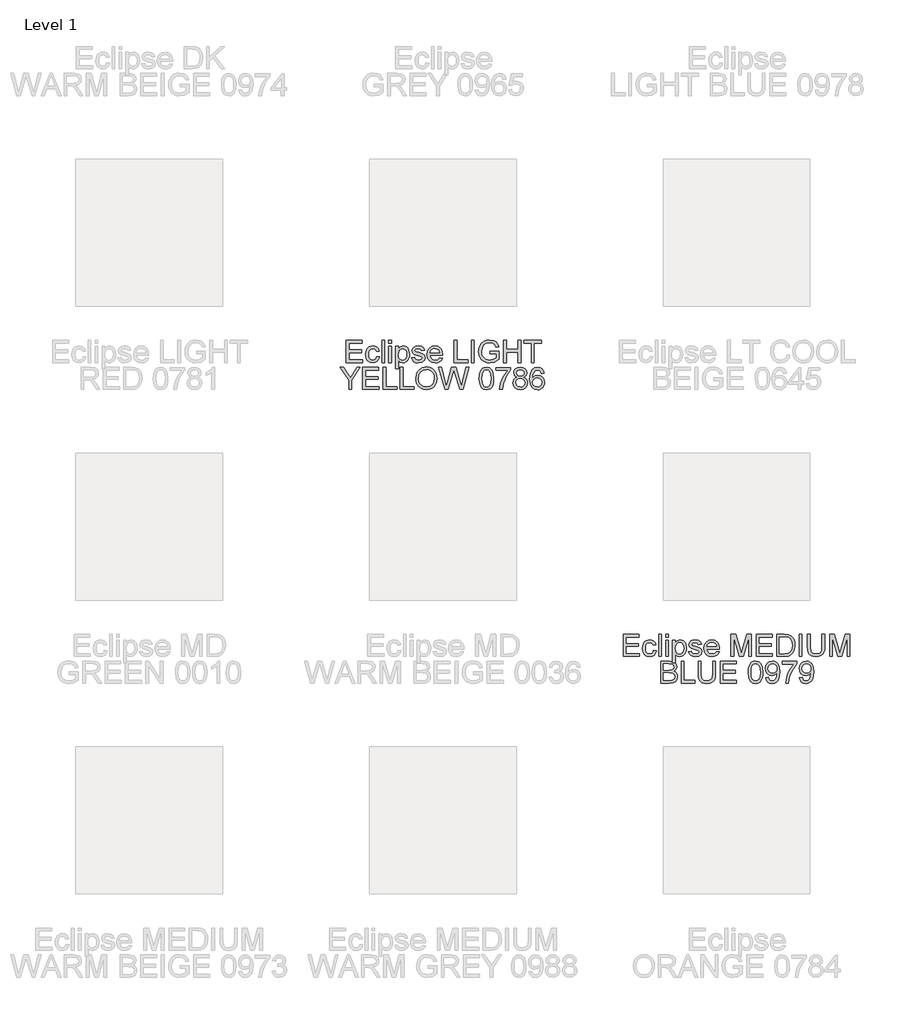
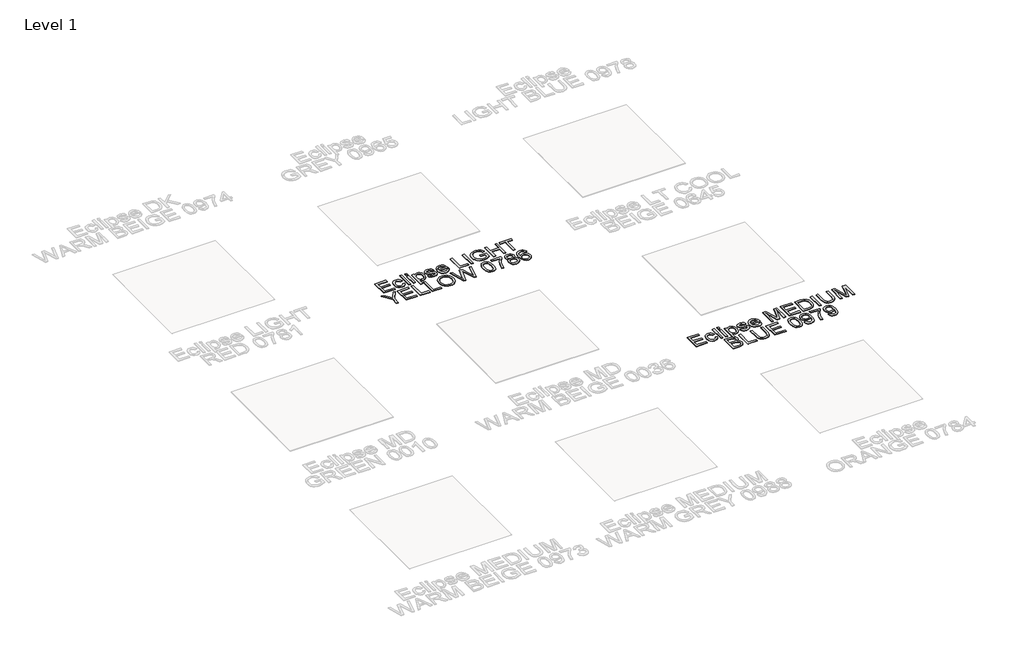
# One storey, part 9 of 13: 2 proxies.
"""IFC4 building model written with IfcOpenShell, lengths in millimetres."""

from ifc_helpers import new_model, si_unit, origin, origin_with_axes, place, context, project, spatial, polyline, outline, extrude, element, save

model = new_model("IFC4")

# Units and contexts
model_context = context("Model", 3, world=origin())
ifc_project = project(units=[si_unit("LENGTHUNIT", "METRE", prefix="MILLI")], contexts=[model_context])

# Site, building, storey
site = spatial("IfcSite", under=ifc_project)
building = spatial("IfcBuilding", under=site)
storey = spatial("IfcBuildingStorey", under=building, Name="Level 1", Elevation=0.0)

# Proxies
placement = place(None, origin())
element("IfcBuildingElementProxy", 1, Name="150mm Arial", ObjectType="150mm Arial", at=placement, inside=storey, context=model_context, shape_type="SweptSolid", body=[
    extrude(outline(polyline([(3407.9918437, -1362.9455422), (3407.9918437, -1212.261077), (3516.2963031, -1212.261077), (3516.2963031, -1231.0966352), (3426.8274019, -1231.0966352), (3426.8274019, -1275.8310858), (3511.5874136, -1275.8310858), (3511.5874136, -1294.6666439), (3426.8274019, -1294.6666439), (3426.8274019, -1344.1099841), (3518.6507479, -1344.1099841), (3518.6507479, -1362.9455422), (3407.9918437, -1362.9455422)])), origin_with_axes(), (0.0, 0.0, 1.0), 5.0),
    extrude(outline(polyline([(3615.1829834, -1322.9199812), (3634.0185416, -1325.2744259), (3628.7670261, -1342.0268523), (3618.8985916, -1354.6865914), (3605.34214, -1362.6466381), (3589.0265735, -1365.299987), (3568.9908004, -1361.5981744), (3553.3236259, -1350.4927367), (3543.2114696, -1332.4711175), (3539.8407508, -1308.0207603), (3541.2800891, -1291.2591369), (3545.598104, -1276.7323967), (3552.8637734, -1265.0015595), (3563.1460752, -1256.6276456), (3575.4471294, -1251.6060564), (3588.7690561, -1249.9321933), (3604.684551, -1252.2314558), (3617.4086695, -1259.1292432), (3626.5367415, -1270.2576735), (3631.6640968, -1285.2488648), (3612.8285386, -1287.6033096), (3604.0913412, -1273.4950351), (3588.9162089, -1268.7677515), (3576.7439134, -1271.0946051), (3567.0824125, -1278.0751659), (3560.7778348, -1290.0865131), (3558.6763089, -1307.5057256), (3560.7318496, -1325.1594628), (3566.8984715, -1337.2121967), (3576.3852285, -1344.1513708), (3588.4011742, -1346.4644288), (3598.1546455, -1345.020492), (3606.1514804, -1340.6886815), (3611.9686145, -1333.3586328), (3615.1829834, -1322.9199812)])), origin_with_axes(), (0.0, 0.0, 1.0), 5.0),
    extrude(outline(polyline([(3650.4996549, -1362.9455422), (3650.4996549, -1212.261077), (3669.3352131, -1212.261077), (3669.3352131, -1362.9455422), (3650.4996549, -1362.9455422)])), origin_with_axes(), (0.0, 0.0, 1.0), 5.0),
    extrude(outline(polyline([(3697.5885503, -1231.0966352), (3697.5885503, -1212.261077), (3716.4241085, -1212.261077), (3716.4241085, -1231.0966352), (3697.5885503, -1231.0966352)])), origin_with_axes(), (0.0, 0.0, 1.0), 5.0),
    extrude(outline(polyline([(3697.5885503, -1362.9455422), (3697.5885503, -1252.2866381), (3716.4241085, -1252.2866381), (3716.4241085, -1362.9455422), (3697.5885503, -1362.9455422)])), origin_with_axes(), (0.0, 0.0, 1.0), 5.0),
    extrude(outline(polyline([(3744.6774457, -1405.3255481), (3744.6774457, -1252.2866381), (3763.5130039, -1252.2866381), (3763.5130039, -1270.7543142), (3776.5360265, -1255.1377235), (3794.1207859, -1249.9321933), (3806.8586999, -1251.7532092), (3817.9963273, -1257.2162568), (3827.0646185, -1265.9902424), (3833.5945239, -1277.7440721), (3838.8552365, -1306.7699616), (3837.3699129, -1322.8785944), (3832.9139422, -1337.2857731), (3825.6298787, -1349.260332), (3815.6602767, -1358.0711058), (3804.0490012, -1363.4927667), (3791.8399175, -1365.299987), (3775.4507746, -1360.4623388), (3763.5130039, -1348.2302624), (3763.5130039, -1405.3255481), (3744.6774457, -1405.3255481)]), holes=[polyline([(3763.5130039, -1308.4990069), (3765.5501504, -1325.3847905), (3771.66159, -1337.1938026), (3780.6792975, -1344.1467723), (3791.4352473, -1346.4644288), (3802.3659411, -1344.0639988), (3811.6135747, -1336.8627088), (3817.9181524, -1324.6214354), (3820.0196783, -1307.1010554), (3817.9687362, -1290.3072423), (3811.8159098, -1278.3326833), (3802.811998, -1271.1589844), (3792.2077995, -1268.7677515), (3781.5622142, -1271.3107358), (3772.213413, -1278.9396886), (3765.6881062, -1291.4154868), (3763.5130039, -1308.4990069)])]), origin_with_axes(), (0.0, 0.0, 1.0), 5.0),
    extrude(outline(polyline([(3852.9819051, -1329.9833155), (3871.8174632, -1327.6288707), (3874.7881103, -1335.6854864), (3880.5362665, -1341.6083865), (3900.5122589, -1346.4644288), (3919.715699, -1342.0130567), (3925.9696929, -1331.565208), (3924.3969974, -1326.764348), (3919.6789108, -1323.1039222), (3900.2915297, -1317.732845), (3871.9278278, -1308.517401), (3859.5485987, -1297.7568527), (3855.3363499, -1282.5633263), (3858.7208642, -1268.5286282), (3867.9547023, -1257.804868), (3879.9292612, -1252.2314558), (3896.1344631, -1249.9321933), (3919.0535114, -1253.6294074), (3933.6216384, -1263.6357976), (3940.0963615, -1280.5399753), (3921.2608034, -1282.8944201), (3914.179075, -1272.5017537), (3897.6059911, -1268.7677515), (3879.5797733, -1272.3362068), (3874.171908, -1280.6503399), (3876.4159882, -1286.1317816), (3883.4425343, -1290.2888482), (3899.6661303, -1294.2987619), (3927.3124622, -1303.164718), (3940.1515438, -1313.2078965), (3944.8052511, -1329.5786453), (3939.3422035, -1347.604863), (3923.57846, -1360.683068), (3900.2547415, -1365.299987), (3881.2628335, -1363.0743009), (3867.4028793, -1356.3972427), (3858.1506471, -1345.3423888), (3852.9819051, -1329.9833155)])), origin_with_axes(), (0.0, 0.0, 1.0), 5.0),
    extrude(outline(polyline([(4043.4712022, -1329.9833155), (4061.9388783, -1332.3377602), (4055.2848128, -1346.2528967), (4044.6668187, -1356.6547601), (4030.3240194, -1363.1386803), (4012.4955382, -1365.299987), (3990.3950273, -1361.5705833), (3973.3896821, -1350.3823721), (3962.5463603, -1332.4619204), (3958.9319197, -1308.5357951), (3962.5831485, -1283.804928), (3973.5368349, -1265.3096607), (3990.3122539, -1253.7765602), (4011.4286804, -1249.9321933), (4031.8875179, -1253.7673631), (4048.235274, -1265.2728725), (4058.9544357, -1283.7313516), (4062.5274895, -1308.4254305), (4062.4171249, -1313.5022021), (3977.7674778, -1313.5022021), (3981.027832, -1327.6012795), (3988.6016026, -1337.9663548), (3999.5322964, -1344.3399103), (4012.8634202, -1346.4644288), (4031.3310963, -1342.5280915), (4043.4712022, -1329.9833155)]), holes=[polyline([(3977.7674778, -1294.6666439), (4043.6919314, -1294.6666439), (4041.1443486, -1284.715436), (4036.1503505, -1277.5969193), (4025.1690729, -1270.9750434), (4011.355104, -1268.7677515), (3998.6585766, -1270.5289865), (3988.1601442, -1275.8126917), (3980.8622851, -1284.0486498), (3977.7674778, -1294.6666439)])]), origin_with_axes(), (0.0, 0.0, 1.0), 5.0),
    extrude(outline(polyline([(4142.5786117, -1362.9455422), (4142.5786117, -1212.261077), (4161.4141698, -1212.261077), (4161.4141698, -1344.1099841), (4236.7564025, -1344.1099841), (4236.7564025, -1362.9455422), (4142.5786117, -1362.9455422)])), origin_with_axes(), (0.0, 0.0, 1.0), 5.0),
    extrude(outline(polyline([(4260.3008501, -1362.9455422), (4260.3008501, -1212.261077), (4279.1364083, -1212.261077), (4279.1364083, -1362.9455422), (4260.3008501, -1362.9455422)])), origin_with_axes(), (0.0, 0.0, 1.0), 5.0),
    extrude(outline(polyline([(4387.4408677, -1304.084423), (4387.4408677, -1285.2488648), (4448.6564317, -1285.2488648), (4448.6564317, -1341.5715983), (4418.4349258, -1359.3402987), (4386.4843745, -1365.299987), (4365.3541524, -1362.9317467), (4346.2564783, -1355.8270256), (4330.3915673, -1344.2341443), (4318.9596343, -1328.4014229), (4312.0480513, -1309.4095149), (4309.7441903, -1288.3390736), (4312.0388542, -1267.116881), (4318.9228461, -1247.3754134), (4330.1110573, -1230.8161251), (4345.3183792, -1219.1404703), (4363.8412377, -1212.2150918), (4384.9760583, -1209.9066322), (4414.4434061, -1215.2593153), (4426.1926373, -1221.660462), (4435.0999802, -1230.1585361), (4446.4859279, -1255.0825412), (4429.1218977, -1259.9753718), (4420.5318531, -1242.5561593), (4405.8533615, -1232.5129808), (4384.6817527, -1228.7421904), (4360.5670879, -1232.8072864), (4344.1595509, -1243.4758643), (4334.4658604, -1257.988809), (4328.5797484, -1287.5665214), (4330.3501805, -1305.5789436), (4335.6614769, -1320.3999895), (4344.352689, -1331.923893), (4356.2628686, -1340.044888), (4370.2009977, -1344.8595436), (4384.9760583, -1346.4644288), (4410.7461921, -1341.6267806), (4429.8208735, -1331.3076906), (4429.8208735, -1304.084423), (4387.4408677, -1304.084423)])), origin_with_axes(), (0.0, 0.0, 1.0), 5.0),
    extrude(outline(polyline([(4479.2642137, -1362.9455422), (4479.2642137, -1212.261077), (4498.0997718, -1212.261077), (4498.0997718, -1273.476641), (4578.150894, -1273.476641), (4578.150894, -1212.261077), (4596.9864521, -1212.261077), (4596.9864521, -1362.9455422), (4578.150894, -1362.9455422), (4578.150894, -1292.3121992), (4498.0997718, -1292.3121992), (4498.0997718, -1362.9455422), (4479.2642137, -1362.9455422)])), origin_with_axes(), (0.0, 0.0, 1.0), 5.0),
    extrude(outline(polyline([(4667.6197952, -1362.9455422), (4667.6197952, -1231.0966352), (4618.1764551, -1231.0966352), (4618.1764551, -1212.261077), (4735.8986935, -1212.261077), (4735.8986935, -1231.0966352), (4686.4553534, -1231.0966352), (4686.4553534, -1362.9455422), (4667.6197952, -1362.9455422)])), origin_with_axes(), (0.0, 0.0, 1.0), 5.0),
    extrude(outline(polyline([(3425.6501795, -1545.907769), (3425.6501795, -1482.0802428), (3366.7890603, -1395.2233038), (3389.0091328, -1395.2233038), (3420.4262552, -1441.6132234), (3436.5026983, -1465.2680357), (3452.6159297, -1439.9209662), (3481.1267844, -1395.2233038), (3503.3468569, -1395.2233038), (3444.4857376, -1482.0802428), (3444.4857376, -1545.907769), (3425.6501795, -1545.907769)])), origin_with_axes(), (0.0, 0.0, 1.0), 5.0),
    extrude(outline(polyline([(3519.8279703, -1545.907769), (3519.8279703, -1395.2233038), (3628.1324296, -1395.2233038), (3628.1324296, -1414.0588619), (3538.6635284, -1414.0588619), (3538.6635284, -1458.7933125), (3623.4235401, -1458.7933125), (3623.4235401, -1477.6288707), (3538.6635284, -1477.6288707), (3538.6635284, -1527.0722108), (3630.4868744, -1527.0722108), (3630.4868744, -1545.907769), (3519.8279703, -1545.907769)])), origin_with_axes(), (0.0, 0.0, 1.0), 5.0),
    extrude(outline(polyline([(3658.7402116, -1545.907769), (3658.7402116, -1395.2233038), (3677.5757698, -1395.2233038), (3677.5757698, -1527.0722108), (3752.9180024, -1527.0722108), (3752.9180024, -1545.907769), (3658.7402116, -1545.907769)])), origin_with_axes(), (0.0, 0.0, 1.0), 5.0),
    extrude(outline(polyline([(3774.1080053, -1545.907769), (3774.1080053, -1395.2233038), (3792.9435635, -1395.2233038), (3792.9435635, -1527.0722108), (3868.2857961, -1527.0722108), (3868.2857961, -1545.907769), (3774.1080053, -1545.907769)])), origin_with_axes(), (0.0, 0.0, 1.0), 5.0),
    extrude(outline(polyline([(3882.4124647, -1472.5520992), (3887.4340539, -1439.2311874), (3893.7110405, -1425.6126558), (3902.4988216, -1414.0220737), (3925.5006434, -1398.1571627), (3954.3333948, -1392.868859), (3974.0978549, -1395.3520625), (3991.8205701, -1402.8016729), (4006.5358499, -1414.6934584), (4017.2780041, -1430.5031871), (4023.8446977, -1449.467504), (4026.0335956, -1470.8230538), (4023.7297346, -1492.4637121), (4016.8181516, -1511.6947434), (4005.6805242, -1527.5320633), (3990.69853, -1538.9915875), (3973.1275662, -1545.9445572), (3954.2230302, -1548.2622138), (3934.1550673, -1545.7008354), (3916.3311847, -1538.0167002), (3901.652693, -1525.9041855), (3891.0209034, -1510.0576686), (3884.5645744, -1491.8245172), (3882.4124647, -1472.5520992)]), holes=[polyline([(3901.2480228, -1472.7360402), (3905.0142148, -1496.308079), (3916.3127906, -1514.2699174), (3933.2951432, -1525.6374711), (3954.1126656, -1529.4266556), (3975.2336906, -1525.6006829), (3992.2436344, -1514.1227646), (4003.4594367, -1495.6091032), (4007.1980375, -1470.675901), (4005.5977508, -1454.0016496), (4000.7968907, -1439.5898724), (3992.9196175, -1427.803853), (3982.0900913, -1419.0068748), (3969.0256819, -1413.5300316), (3954.4437594, -1411.7044172), (3934.1826585, -1415.2222887), (3916.956584, -1425.7759035), (3905.1751631, -1444.5516808), (3901.2480228, -1472.7360402)])]), origin_with_axes(), (0.0, 0.0, 1.0), 5.0),
    extrude(outline(polyline([(4078.8982383, -1545.907769), (4037.8058195, -1395.2233038), (4057.2299888, -1395.2233038), (4081.0687421, -1494.2571369), (4088.426382, -1524.8281307), (4096.2990567, -1497.788804), (4126.1710747, -1395.2233038), (4154.1668945, -1395.2233038), (4175.8719322, -1469.572255), (4192.0219518, -1524.8281307), (4199.1588625, -1495.1400537), (4223.218345, -1395.2233038), (4242.6425144, -1395.2233038), (4201.5133073, -1545.907769), (4181.3901622, -1545.907769), (4145.2641503, -1429.6570585), (4140.2241669, -1413.4334625), (4134.5587842, -1432.9679965), (4101.6333456, -1545.907769), (4078.8982383, -1545.907769)])), origin_with_axes(), (0.0, 0.0, 1.0), 5.0),
    extrude(outline(polyline([(4313.2758574, -1471.779547), (4314.6600135, -1447.6602837), (4318.8124815, -1428.4246538), (4325.6918748, -1413.7783519), (4335.2568067, -1403.4270723), (4347.576255, -1397.2742459), (4362.7191976, -1395.2233038), (4384.7185409, -1400.0793461), (4399.9120673, -1414.077256), (4408.7412352, -1436.3709049), (4412.1625378, -1471.779547), (4410.7921773, -1495.7608545), (4406.681096, -1514.9504991), (4399.8430894, -1529.6105966), (4390.2919531, -1540.003263), (4377.9449137, -1546.1974761), (4362.7191976, -1548.2622138), (4343.1478755, -1544.6753643), (4328.2854429, -1533.914816), (4317.0282538, -1508.4297907), (4313.2758574, -1471.779547)]), holes=[polyline([(4332.1114156, -1471.7427588), (4334.3187076, -1501.371055), (4340.9405835, -1518.5189545), (4350.799821, -1526.6997303), (4362.7191976, -1529.4266556), (4374.6385742, -1526.6905333), (4384.4978117, -1518.4821663), (4391.1196876, -1501.3250697), (4393.3269796, -1471.7427588), (4391.193264, -1442.7812487), (4384.7921173, -1425.499992), (4374.9512739, -1416.9191444), (4362.4984684, -1414.0588619), (4350.7078505, -1416.5788536), (4341.2348891, -1424.1388286), (4334.392284, -1442.4961402), (4332.1114156, -1471.7427588)])]), origin_with_axes(), (0.0, 0.0, 1.0), 5.0),
    extrude(outline(polyline([(4428.6436511, -1416.4133067), (4428.6436511, -1397.5777485), (4527.5303314, -1397.5777485), (4527.5303314, -1412.8080631), (4499.4793293, -1453.3302649), (4487.169078, -1478.7922975), (4478.0134149, -1504.9625029), (4471.023657, -1545.907769), (4452.1880988, -1545.907769), (4459.6744974, -1503.4173986), (4468.3887022, -1478.9578444), (4480.2207069, -1455.3904041), (4508.6947733, -1416.4133067), (4428.6436511, -1416.4133067)])), origin_with_axes(), (0.0, 0.0, 1.0), 5.0),
    extrude(outline(polyline([(4571.4554417, -1462.9135909), (4554.2937466, -1451.2149434), (4548.7203344, -1433.0047847), (4551.7553608, -1418.2803078), (4560.8604402, -1406.1126108), (4575.0147, -1397.9456305), (4593.1972676, -1395.2233038), (4611.4901998, -1398.0100099), (4625.8284006, -1406.3701282), (4635.0990268, -1418.7309633), (4638.1892356, -1433.5198195), (4632.6893998, -1451.2701257), (4616.0059513, -1462.9135909), (4627.5988327, -1468.8870748), (4636.0371259, -1477.684053), (4641.1828753, -1488.8814612), (4642.8981251, -1502.0562352), (4639.4952167, -1520.0640588), (4629.2864913, -1534.9448855), (4613.5227478, -1544.9328817), (4593.454785, -1548.2622138), (4573.3868221, -1544.9190861), (4557.6230786, -1534.8897032), (4547.4143533, -1519.8663223), (4544.0114448, -1501.5412004), (4545.7956725, -1487.8559902), (4551.1483555, -1476.5988011), (4559.7935824, -1468.1559093), (4571.4554417, -1462.9135909)]), holes=[polyline([(4567.5558925, -1433.5566077), (4569.2251571, -1441.7787703), (4574.2329507, -1448.3454639), (4582.4321207, -1452.6496832), (4593.6755142, -1454.084423), (4604.6567917, -1452.6588803), (4612.7318015, -1448.3822521), (4617.6982085, -1442.0362877), (4619.3536774, -1434.4027363), (4617.6430262, -1426.4794778), (4612.5110723, -1419.9265797), (4604.3256979, -1415.5257914), (4593.454785, -1414.0588619), (4582.5148941, -1415.4936017), (4574.3433153, -1419.7978211), (4569.2527482, -1426.1069973), (4567.5558925, -1433.5566077)]), polyline([(4562.847003, -1500.8790128), (4565.992394, -1515.0608637), (4577.1208244, -1525.6742593), (4593.6019378, -1529.4266556), (4606.4226253, -1527.4538884), (4616.0427395, -1521.5355868), (4622.0576101, -1512.5730617), (4624.062567, -1501.467624), (4621.9932308, -1490.1736467), (4615.7852221, -1481.013385), (4605.9443787, -1474.9433321), (4592.9765384, -1472.9199812), (4580.3351933, -1474.915741), (4570.8116482, -1480.9030204), (4564.8381643, -1489.8885382), (4562.847003, -1500.8790128)])]), origin_with_axes(), (0.0, 0.0, 1.0), 5.0),
    extrude(outline(polyline([(4755.911474, -1435.2488648), (4737.0759159, -1437.6033096), (4729.9390052, -1421.8947484), (4721.3949458, -1416.0178336), (4711.0666588, -1414.0588619), (4694.0705107, -1418.6205987), (4681.2130349, -1435.7455055), (4677.3088873, -1449.7756051), (4675.8603519, -1469.3147376), (4692.470224, -1454.2867581), (4713.0532216, -1449.3755335), (4730.45404, -1452.7324567), (4745.0589552, -1462.8032263), (4754.9641779, -1478.1898907), (4758.2659188, -1497.4944984), (4756.7116174, -1510.9819721), (4752.0487131, -1523.4853614), (4744.663482, -1534.0895599), (4734.9422003, -1541.8794612), (4723.3263263, -1546.6665256), (4710.2573184, -1548.2622138), (4688.887973, -1544.0315708), (4671.8688322, -1531.339642), (4660.7358034, -1508.9356285), (4657.0247937, -1475.5687315), (4661.1450721, -1438.0539651), (4673.5059071, -1412.4033929), (4690.3824937, -1399.5183261), (4712.2438812, -1395.2233038), (4728.7709799, -1397.8812512), (4742.0055346, -1405.8550934), (4751.2761609, -1418.5194311), (4755.911474, -1435.2488648)]), holes=[polyline([(4675.8603519, -1497.2001928), (4680.2197535, -1513.5157593), (4691.8080364, -1525.3615596), (4708.7857905, -1529.4266556), (4721.2156034, -1527.3205312), (4730.9874689, -1521.0021579), (4737.3196377, -1511.0693441), (4739.4303607, -1498.1198978), (4737.3472289, -1485.6900849), (4731.0978335, -1476.212525), (4721.1604211, -1470.21145), (4708.0132383, -1468.2110916), (4695.6018195, -1470.21145), (4685.2229487, -1476.212525), (4678.2010011, -1485.4601587), (4675.8603519, -1497.2001928)])]), origin_with_axes(), (0.0, 0.0, 1.0), 5.0),
])
element("IfcBuildingElementProxy", 2, Name="150mm Arial", ObjectType="150mm Arial", at=placement, inside=storey, context=model_context, shape_type="SweptSolid", body=[
    extrude(outline(polyline([(5293.8012724, -3362.9455422), (5293.8012724, -3212.261077), (5402.1057318, -3212.261077), (5402.1057318, -3231.0966352), (5312.6368306, -3231.0966352), (5312.6368306, -3275.8310858), (5397.3968423, -3275.8310858), (5397.3968423, -3294.6666439), (5312.6368306, -3294.6666439), (5312.6368306, -3344.1099841), (5404.4601766, -3344.1099841), (5404.4601766, -3362.9455422), (5293.8012724, -3362.9455422)])), origin_with_axes(), (0.0, 0.0, 1.0), 5.0),
    extrude(outline(polyline([(5500.9924121, -3322.9199812), (5519.8279703, -3325.2744259), (5514.5764548, -3342.0268523), (5504.7080202, -3354.6865914), (5491.1515687, -3362.6466381), (5474.8360022, -3365.299987), (5454.8002291, -3361.5981744), (5439.1330546, -3350.4927367), (5429.0208983, -3332.4711175), (5425.6501795, -3308.0207603), (5427.0895178, -3291.2591369), (5431.4075327, -3276.7323967), (5438.6732021, -3265.0015595), (5448.9555039, -3256.6276456), (5461.2565581, -3251.6060564), (5474.5784848, -3249.9321933), (5490.4939797, -3252.2314558), (5503.2180982, -3259.1292432), (5512.3461702, -3270.2576735), (5517.4735255, -3285.2488648), (5498.6379673, -3287.6033096), (5489.9007699, -3273.4950351), (5474.7256376, -3268.7677515), (5462.5533421, -3271.0946051), (5452.8918412, -3278.0751659), (5446.5872635, -3290.0865131), (5444.4857376, -3307.5057256), (5446.5412783, -3325.1594628), (5452.7079002, -3337.2121967), (5462.1946572, -3344.1513708), (5474.2106028, -3346.4644288), (5483.9640742, -3345.020492), (5491.9609091, -3340.6886815), (5497.7780432, -3333.3586328), (5500.9924121, -3322.9199812)])), origin_with_axes(), (0.0, 0.0, 1.0), 5.0),
    extrude(outline(polyline([(5536.3090836, -3362.9455422), (5536.3090836, -3212.261077), (5555.1446418, -3212.261077), (5555.1446418, -3362.9455422), (5536.3090836, -3362.9455422)])), origin_with_axes(), (0.0, 0.0, 1.0), 5.0),
    extrude(outline(polyline([(5583.397979, -3231.0966352), (5583.397979, -3212.261077), (5602.2335372, -3212.261077), (5602.2335372, -3231.0966352), (5583.397979, -3231.0966352)])), origin_with_axes(), (0.0, 0.0, 1.0), 5.0),
    extrude(outline(polyline([(5583.397979, -3362.9455422), (5583.397979, -3252.2866381), (5602.2335372, -3252.2866381), (5602.2335372, -3362.9455422), (5583.397979, -3362.9455422)])), origin_with_axes(), (0.0, 0.0, 1.0), 5.0),
    extrude(outline(polyline([(5630.4868744, -3405.3255481), (5630.4868744, -3252.2866381), (5649.3224326, -3252.2866381), (5649.3224326, -3270.7543142), (5662.3454552, -3255.1377235), (5679.9302146, -3249.9321933), (5692.6681286, -3251.7532092), (5703.805756, -3257.2162568), (5712.8740472, -3265.9902424), (5719.4039526, -3277.7440721), (5724.6646652, -3306.7699616), (5723.1793416, -3322.8785944), (5718.7233709, -3337.2857731), (5711.4393074, -3349.260332), (5701.4697054, -3358.0711058), (5689.8584299, -3363.4927667), (5677.6493462, -3365.299987), (5661.2602033, -3360.4623388), (5649.3224326, -3348.2302624), (5649.3224326, -3405.3255481), (5630.4868744, -3405.3255481)]), holes=[polyline([(5649.3224326, -3308.4990069), (5651.3595791, -3325.3847905), (5657.4710187, -3337.1938026), (5666.4887262, -3344.1467723), (5677.244676, -3346.4644288), (5688.1753698, -3344.0639988), (5697.4230034, -3336.8627088), (5703.7275811, -3324.6214354), (5705.829107, -3307.1010554), (5703.7781649, -3290.3072423), (5697.6253385, -3278.3326833), (5688.6214267, -3271.1589844), (5678.0172282, -3268.7677515), (5667.3716429, -3271.3107358), (5658.0228417, -3278.9396886), (5651.4975348, -3291.4154868), (5649.3224326, -3308.4990069)])]), origin_with_axes(), (0.0, 0.0, 1.0), 5.0),
    extrude(outline(polyline([(5738.7913338, -3329.9833155), (5757.6268919, -3327.6288707), (5760.597539, -3335.6854864), (5766.3456952, -3341.6083865), (5786.3216876, -3346.4644288), (5805.5251277, -3342.0130567), (5811.7791216, -3331.565208), (5810.2064261, -3326.764348), (5805.4883395, -3323.1039222), (5786.1009584, -3317.732845), (5757.7372565, -3308.517401), (5745.3580274, -3297.7568527), (5741.1457785, -3282.5633263), (5744.5302929, -3268.5286282), (5753.764131, -3257.804868), (5765.7386899, -3252.2314558), (5781.9438918, -3249.9321933), (5804.8629401, -3253.6294074), (5819.4310671, -3263.6357976), (5825.9057902, -3280.5399753), (5807.0702321, -3282.8944201), (5799.9885037, -3272.5017537), (5783.4154198, -3268.7677515), (5765.389202, -3272.3362068), (5759.9813367, -3280.6503399), (5762.2254169, -3286.1317816), (5769.251963, -3290.2888482), (5785.475559, -3294.2987619), (5813.1218909, -3303.164718), (5825.9609725, -3313.2078965), (5830.6146798, -3329.5786453), (5825.1516321, -3347.604863), (5809.3878887, -3360.683068), (5786.0641702, -3365.299987), (5767.0722622, -3363.0743009), (5753.212308, -3356.3972427), (5743.9600758, -3345.3423888), (5738.7913338, -3329.9833155)])), origin_with_axes(), (0.0, 0.0, 1.0), 5.0),
    extrude(outline(polyline([(5929.2806309, -3329.9833155), (5947.748307, -3332.3377602), (5941.0942415, -3346.2528967), (5930.4762474, -3356.6547601), (5916.1334481, -3363.1386803), (5898.3049669, -3365.299987), (5876.204456, -3361.5705833), (5859.1991108, -3350.3823721), (5848.355789, -3332.4619204), (5844.7413484, -3308.5357951), (5848.3925772, -3283.804928), (5859.3462636, -3265.3096607), (5876.1216826, -3253.7765602), (5897.2381091, -3249.9321933), (5917.6969466, -3253.7673631), (5934.0447027, -3265.2728725), (5944.7638644, -3283.7313516), (5948.3369182, -3308.4254305), (5948.2265536, -3313.5022021), (5863.5769065, -3313.5022021), (5866.8372607, -3327.6012795), (5874.4110313, -3337.9663548), (5885.3417251, -3344.3399103), (5898.6728489, -3346.4644288), (5917.140525, -3342.5280915), (5929.2806309, -3329.9833155)]), holes=[polyline([(5863.5769065, -3294.6666439), (5929.5013601, -3294.6666439), (5926.9537773, -3284.715436), (5921.9597792, -3277.5969193), (5910.9785016, -3270.9750434), (5897.1645327, -3268.7677515), (5884.4680053, -3270.5289865), (5873.9695729, -3275.8126917), (5866.6717138, -3284.0486498), (5863.5769065, -3294.6666439)])]), origin_with_axes(), (0.0, 0.0, 1.0), 5.0),
    extrude(outline(polyline([(6028.3880404, -3362.9455422), (6028.3880404, -3212.261077), (6060.7984442, -3212.261077), (6091.6269554, -3318.468609), (6097.8441611, -3340.6518933), (6104.5764016, -3316.629199), (6134.889878, -3212.261077), (6167.3002818, -3212.261077), (6167.3002818, -3362.9455422), (6148.4647236, -3362.9455422), (6148.4647236, -3231.0966352), (6110.6096663, -3362.9455422), (6085.0786558, -3362.9455422), (6047.2235985, -3231.0966352), (6047.2235985, -3362.9455422), (6028.3880404, -3362.9455422)])), origin_with_axes(), (0.0, 0.0, 1.0), 5.0),
    extrude(outline(polyline([(6200.2625085, -3362.9455422), (6200.2625085, -3212.261077), (6308.5669679, -3212.261077), (6308.5669679, -3231.0966352), (6219.0980667, -3231.0966352), (6219.0980667, -3275.8310858), (6303.8580784, -3275.8310858), (6303.8580784, -3294.6666439), (6219.0980667, -3294.6666439), (6219.0980667, -3344.1099841), (6310.9214127, -3344.1099841), (6310.9214127, -3362.9455422), (6200.2625085, -3362.9455422)])), origin_with_axes(), (0.0, 0.0, 1.0), 5.0),
    extrude(outline(polyline([(6339.1747499, -3362.9455422), (6339.1747499, -3212.261077), (6391.1564758, -3212.261077), (6418.0486497, -3214.4315808), (6440.1951458, -3225.2105232), (6450.6154033, -3236.6884415), (6458.0374225, -3250.9622629), (6462.4795976, -3267.756076), (6463.9603227, -3286.7939692), (6459.9504089, -3317.1994161), (6449.6497131, -3339.1435771), (6435.8909264, -3352.8103933), (6417.8831028, -3360.3703683), (6393.6580734, -3362.9455422), (6339.1747499, -3362.9455422)]), holes=[polyline([(6358.0103081, -3344.1099841), (6391.3404168, -3344.1099841), (6415.5838403, -3341.3876573), (6429.5633561, -3333.6989236), (6441.0228803, -3314.9921242), (6445.1247645, -3286.4996636), (6443.1152091, -3265.9718483), (6437.0865429, -3250.8151101), (6428.1792001, -3240.4040496), (6417.5336149, -3234.1132675), (6390.825382, -3231.0966352), (6358.0103081, -3231.0966352), (6358.0103081, -3344.1099841)])]), origin_with_axes(), (0.0, 0.0, 1.0), 5.0),
    extrude(outline(polyline([(6492.2136599, -3362.9455422), (6492.2136599, -3212.261077), (6511.0492181, -3212.261077), (6511.0492181, -3362.9455422), (6492.2136599, -3362.9455422)])), origin_with_axes(), (0.0, 0.0, 1.0), 5.0),
    extrude(outline(polyline([(6647.6070147, -3212.261077), (6666.4425728, -3212.261077), (6666.4425728, -3299.1915925), (6665.1641829, -3319.5492624), (6661.3290131, -3335.2256339), (6654.1645112, -3347.3197545), (6642.8981251, -3356.9306716), (6627.5022636, -3363.2076582), (6607.9493356, -3365.299987), (6588.8240704, -3363.4789711), (6573.5339749, -3358.0159235), (6562.0744508, -3349.0993836), (6554.4408994, -3336.9178911), (6550.1504756, -3320.579332), (6548.7203344, -3299.1915925), (6548.7203344, -3212.261077), (6567.5558925, -3212.261077), (6567.5558925, -3298.5294049), (6571.2715007, -3327.2425946), (6576.320681, -3335.4049764), (6584.0370059, -3341.4612337), (6606.183502, -3346.4644288), (6625.3409569, -3343.9904224), (6638.078871, -3336.5684032), (6645.2249787, -3322.1106408), (6647.6070147, -3298.5294049), (6647.6070147, -3212.261077)])), origin_with_axes(), (0.0, 0.0, 1.0), 5.0),
    extrude(outline(polyline([(6699.4047996, -3362.9455422), (6699.4047996, -3212.261077), (6731.8152034, -3212.261077), (6762.6437146, -3318.468609), (6768.8609203, -3340.6518933), (6775.5931608, -3316.629199), (6805.9066372, -3212.261077), (6838.317041, -3212.261077), (6838.317041, -3362.9455422), (6819.4814828, -3362.9455422), (6819.4814828, -3231.0966352), (6781.6264255, -3362.9455422), (6756.095415, -3362.9455422), (6718.2403577, -3231.0966352), (6718.2403577, -3362.9455422), (6699.4047996, -3362.9455422)])), origin_with_axes(), (0.0, 0.0, 1.0), 5.0),
    extrude(outline(polyline([(5550.4357522, -3545.907769), (5550.4357522, -3395.2233038), (5607.9357081, -3395.2233038), (5636.0970748, -3399.6562818), (5645.5608392, -3405.2802778), (5652.725341, -3413.2863097), (5658.7402116, -3432.5633263), (5653.6818342, -3450.1664798), (5638.3963373, -3463.5022021), (5649.0695137, -3469.0756143), (5656.955984, -3477.5552943), (5661.8258219, -3488.380222), (5663.4491012, -3500.9893774), (5659.0161231, -3521.2412812), (5648.0348456, -3535.6622554), (5631.6457027, -3543.3142009), (5607.4942497, -3545.907769), (5550.4357522, -3545.907769)]), holes=[polyline([(5569.2713104, -3527.0722108), (5607.8989199, -3527.0722108), (5621.8784357, -3526.3364469), (5633.7058419, -3522.2345626), (5641.5417284, -3513.8652472), (5644.613543, -3501.1733184), (5641.0082995, -3486.531615), (5629.3280461, -3477.7944176), (5606.0595099, -3475.2744259), (5569.2713104, -3475.2744259), (5569.2713104, -3527.0722108)]), polyline([(5569.2713104, -3456.4388678), (5603.668277, -3456.4388678), (5623.7546339, -3454.820187), (5635.8395574, -3447.8488232), (5639.9046535, -3435.5799586), (5636.1154689, -3423.2927), (5625.2629501, -3416.0270306), (5601.0563148, -3414.0588619), (5569.2713104, -3414.0588619), (5569.2713104, -3456.4388678)])]), origin_with_axes(), (0.0, 0.0, 1.0), 5.0),
    extrude(outline(polyline([(5689.3479936, -3545.907769), (5689.3479936, -3395.2233038), (5708.1835518, -3395.2233038), (5708.1835518, -3527.0722108), (5783.5257844, -3527.0722108), (5783.5257844, -3545.907769), (5689.3479936, -3545.907769)])), origin_with_axes(), (0.0, 0.0, 1.0), 5.0),
    extrude(outline(polyline([(5903.6024676, -3395.2233038), (5922.4380258, -3395.2233038), (5922.4380258, -3482.1538192), (5921.1596358, -3502.5114891), (5917.324466, -3518.1878607), (5910.1599642, -3530.2819813), (5898.8935781, -3539.8928984), (5883.4977166, -3546.1698849), (5863.9447885, -3548.2622138), (5844.8195233, -3546.4411979), (5829.5294279, -3540.9781503), (5818.0699037, -3532.0616104), (5810.4363523, -3519.8801178), (5806.1459286, -3503.5415587), (5804.7157873, -3482.1538192), (5804.7157873, -3395.2233038), (5823.5513455, -3395.2233038), (5823.5513455, -3481.4916316), (5827.2669536, -3510.2048214), (5832.316134, -3518.3672031), (5840.0324589, -3524.4234605), (5862.178955, -3529.4266556), (5881.3364099, -3526.9526492), (5894.0743239, -3519.5306299), (5901.2204317, -3505.0728675), (5903.6024676, -3481.4916316), (5903.6024676, -3395.2233038)])), origin_with_axes(), (0.0, 0.0, 1.0), 5.0),
    extrude(outline(polyline([(5955.4002525, -3545.907769), (5955.4002525, -3395.2233038), (6063.7047119, -3395.2233038), (6063.7047119, -3414.0588619), (5974.2358107, -3414.0588619), (5974.2358107, -3458.7933125), (6058.9958224, -3458.7933125), (6058.9958224, -3477.6288707), (5974.2358107, -3477.6288707), (5974.2358107, -3527.0722108), (6066.0591567, -3527.0722108), (6066.0591567, -3545.907769), (5955.4002525, -3545.907769)])), origin_with_axes(), (0.0, 0.0, 1.0), 5.0),
    extrude(outline(polyline([(6146.1102788, -3471.779547), (6147.4944348, -3447.6602837), (6151.6469029, -3428.4246538), (6158.5262962, -3413.7783519), (6168.0912281, -3403.4270723), (6180.4106764, -3397.2742459), (6195.553619, -3395.2233038), (6217.5529623, -3400.0793461), (6232.7464887, -3414.077256), (6241.5756566, -3436.3709049), (6244.9969591, -3471.779547), (6243.6265987, -3495.7608545), (6239.5155174, -3514.9504991), (6232.6775108, -3529.6105966), (6223.1263745, -3540.003263), (6210.7793351, -3546.1974761), (6195.553619, -3548.2622138), (6175.9822968, -3544.6753643), (6161.1198642, -3533.914816), (6149.8626752, -3508.4297907), (6146.1102788, -3471.779547)]), holes=[polyline([(6164.945837, -3471.7427588), (6167.153129, -3501.371055), (6173.7750049, -3518.5189545), (6183.6342423, -3526.6997303), (6195.553619, -3529.4266556), (6207.4729956, -3526.6905333), (6217.3322331, -3518.4821663), (6223.954109, -3501.3250697), (6226.161401, -3471.7427588), (6224.0276854, -3442.7812487), (6217.6265387, -3425.499992), (6207.7856953, -3416.9191444), (6195.3328898, -3414.0588619), (6183.5422718, -3416.5788536), (6174.0693105, -3424.1388286), (6167.2267054, -3442.4961402), (6164.945837, -3471.7427588)])]), origin_with_axes(), (0.0, 0.0, 1.0), 5.0),
    extrude(outline(polyline([(6263.8325173, -3508.2366527), (6282.6680754, -3505.8822079), (6285.8870429, -3516.5737784), (6291.1293613, -3523.8532434), (6298.266272, -3528.0333026), (6307.1690163, -3529.4266556), (6322.417725, -3525.8398062), (6332.7552091, -3516.2564802), (6338.9172325, -3499.8857314), (6341.6395593, -3478.0335409), (6341.5291947, -3474.3547209), (6326.464427, -3488.6285423), (6305.8078529, -3494.1099841), (6288.6323623, -3490.7622579), (6274.3355483, -3480.7190795), (6264.6924415, -3465.2036563), (6261.4780725, -3445.4391961), (6264.8487913, -3425.0217454), (6274.9609477, -3409.0188786), (6290.1498755, -3398.6721975), (6308.7509089, -3395.2233038), (6322.7994026, -3397.1914724), (6335.5879005, -3403.0959785), (6346.2840695, -3412.6425162), (6354.0555766, -3425.5367802), (6358.7874588, -3443.3606628), (6360.3647528, -3467.6960568), (6358.7920573, -3493.4983803), (6354.0739707, -3513.4421829), (6346.2518798, -3528.4287757), (6335.3671713, -3539.3594695), (6321.8888947, -3546.0365277), (6306.2860995, -3548.2622138), (6290.1820652, -3545.636456), (6277.3337865, -3537.7591828), (6268.3482688, -3525.1270348), (6263.8325173, -3508.2366527)]), holes=[polyline([(6341.5291947, -3444.9977377), (6339.4966467, -3432.2322325), (6333.3990026, -3422.4097832), (6323.9352383, -3416.1465922), (6311.8043295, -3414.0588619), (6299.2227652, -3416.3075406), (6289.1427986, -3423.0535767), (6282.5209227, -3433.3772652), (6280.3136307, -3446.3589011), (6282.401361, -3457.9977677), (6288.664552, -3467.2362043), (6298.4961983, -3473.2648705), (6311.2892947, -3475.2744259), (6323.3236344, -3473.2648705), (6333.0127265, -3467.2362043), (6339.4000776, -3457.6574769), (6341.5291947, -3444.9977377)])]), origin_with_axes(), (0.0, 0.0, 1.0), 5.0),
    extrude(outline(polyline([(6376.8458662, -3416.4133067), (6376.8458662, -3397.5777485), (6475.7325465, -3397.5777485), (6475.7325465, -3412.8080631), (6447.6815444, -3453.3302649), (6435.3712931, -3478.7922975), (6426.21563, -3504.9625029), (6419.2258721, -3545.907769), (6400.3903139, -3545.907769), (6407.8767125, -3503.4173986), (6416.5909173, -3478.9578444), (6428.4229219, -3455.3904041), (6456.8969884, -3416.4133067), (6376.8458662, -3416.4133067)])), origin_with_axes(), (0.0, 0.0, 1.0), 5.0),
    extrude(outline(polyline([(6494.5681047, -3508.2366527), (6513.4036628, -3505.8822079), (6516.6226303, -3516.5737784), (6521.8649487, -3523.8532434), (6529.0018594, -3528.0333026), (6537.9046037, -3529.4266556), (6553.1533124, -3525.8398062), (6563.4907965, -3516.2564802), (6569.6528199, -3499.8857314), (6572.3751467, -3478.0335409), (6572.2647821, -3474.3547209), (6557.2000143, -3488.6285423), (6536.5434403, -3494.1099841), (6519.3679497, -3490.7622579), (6505.0711356, -3480.7190795), (6495.4280288, -3465.2036563), (6492.2136599, -3445.4391961), (6495.5843787, -3425.0217454), (6505.696535, -3409.0188786), (6520.8854629, -3398.6721975), (6539.4864963, -3395.2233038), (6553.53499, -3397.1914724), (6566.3234878, -3403.0959785), (6577.0196568, -3412.6425162), (6584.791164, -3425.5367802), (6589.5230462, -3443.3606628), (6591.1003402, -3467.6960568), (6589.5276447, -3493.4983803), (6584.8095581, -3513.4421829), (6576.9874672, -3528.4287757), (6566.1027586, -3539.3594695), (6552.624482, -3546.0365277), (6537.0216869, -3548.2622138), (6520.9176526, -3545.636456), (6508.0693739, -3537.7591828), (6499.0838562, -3525.1270348), (6494.5681047, -3508.2366527)]), holes=[polyline([(6572.2647821, -3444.9977377), (6570.232234, -3432.2322325), (6564.13459, -3422.4097832), (6554.6708256, -3416.1465922), (6542.5399168, -3414.0588619), (6529.9583526, -3416.3075406), (6519.8783859, -3423.0535767), (6513.25651, -3433.3772652), (6511.0492181, -3446.3589011), (6513.1369484, -3457.9977677), (6519.4001393, -3467.2362043), (6529.2317857, -3473.2648705), (6542.024882, -3475.2744259), (6554.0592218, -3473.2648705), (6563.7483139, -3467.2362043), (6570.135665, -3457.6574769), (6572.2647821, -3444.9977377)])]), origin_with_axes(), (0.0, 0.0, 1.0), 5.0),
])

save(model, "model.ifc")
